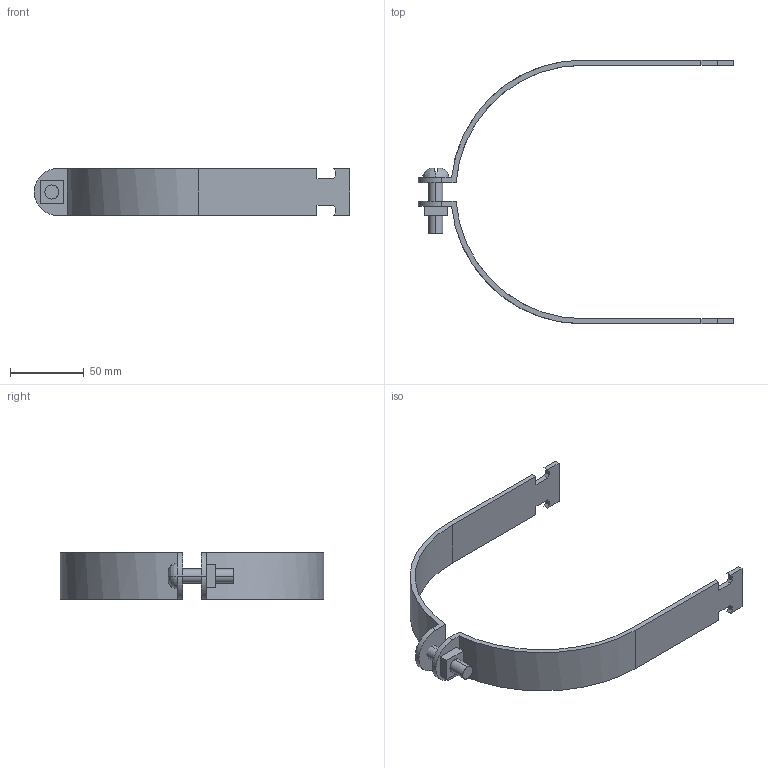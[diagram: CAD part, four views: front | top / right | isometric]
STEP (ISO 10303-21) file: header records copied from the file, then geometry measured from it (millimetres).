
FILE_DESCRIPTION(('TurboCAD Mac Pro'),'Build 980');
FILE_NAME('P2070-66.stp',' ',(''),(''),'ACIS Interop','IMSI','TurboCAD Mac Pro BY IMSI, INCORPORATED');
FILE_SCHEMA(('automotive_design'));
Length unit declared in the file: inch
Products named in the file (5): 1; 2; 3; 4; 5
Bounding box: 213.52 x 178.39 x 31.75 mm (x, y, z)
Volume: 58735.7 mm3; surface area: 38244.5 mm2
Topology: 4 solids, 4 shells, 71 faces, 186 edges, 124 vertices
Faces by surface type: plane 51, bspline 20
Entity records: 3487 total; most frequent: CARTESIAN_POINT 1050, ORIENTED_EDGE 372, DIRECTION 258, EDGE_CURVE 186, LINE 138, VECTOR 138, VERTEX_POINT 124, STYLED_ITEM 91
